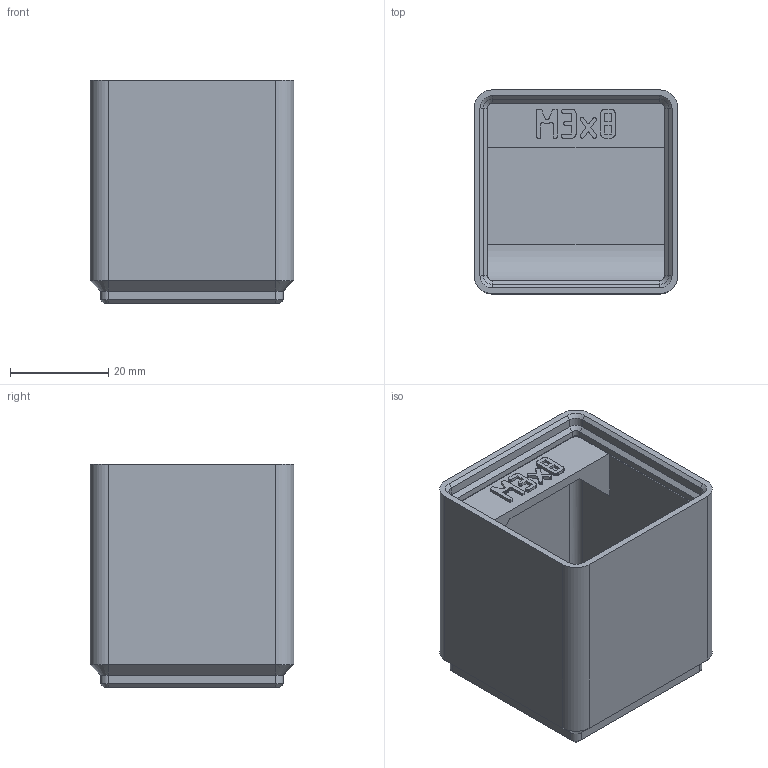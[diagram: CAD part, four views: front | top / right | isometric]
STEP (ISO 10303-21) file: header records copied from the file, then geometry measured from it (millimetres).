
FILE_DESCRIPTION(('Open CASCADE Model'),'2;1');
FILE_NAME('Open CASCADE Shape Model','2026-11-03T10:36:09',('Author'),( 'Open CASCADE'),'Open CASCADE STEP processor 8.0','build123d', 'Unknown');
FILE_SCHEMA(('AUTOMOTIVE_DESIGN { 1 0 10303 214 1 1 1 1 }'));
Length unit declared in the file: millimetre
Products named in the file (1): COMPOUND
Bounding box: 41.5 x 41.5 x 45.55 mm (x, y, z)
Volume: 24940.7 mm3; surface area: 16499.2 mm2
Topology: 1 solids, 1 shells, 507 faces, 1434 edges, 936 vertices
Faces by surface type: plane 466, cylinder 21, cone 20
Entity records: 33941 total; most frequent: CARTESIAN_POINT 7112, DIRECTION 4313, LINE 3182, VECTOR 3182, ORIENTED_EDGE 2868, PCURVE 2868, DEFINITIONAL_REPRESENTATION 2868, EDGE_CURVE 1434
